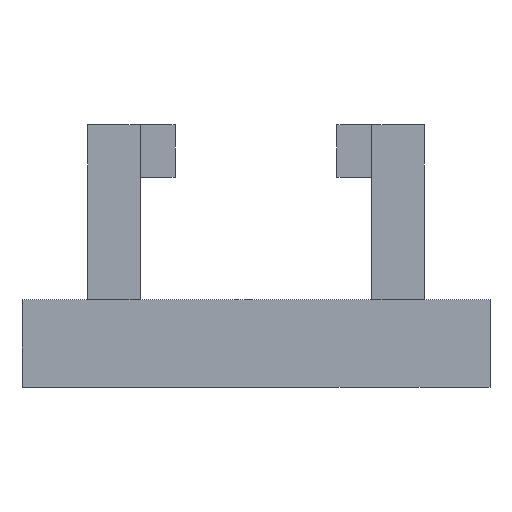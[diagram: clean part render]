
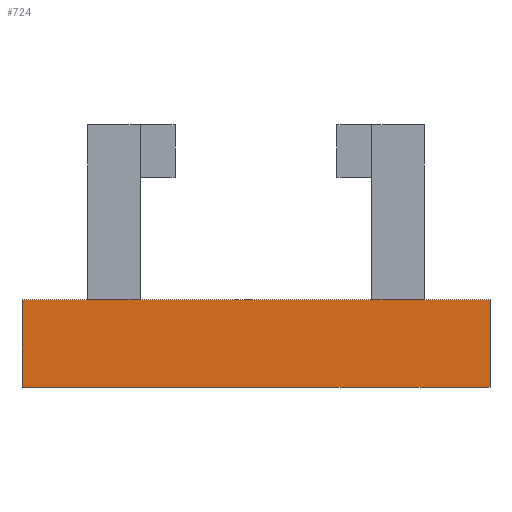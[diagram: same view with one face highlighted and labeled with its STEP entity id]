
A CAD part, front view. The second image highlights one B-rep face of the part: STEP entity #724.
In plain terms, the highlighted planar face has unit normal (0, -1, 0).
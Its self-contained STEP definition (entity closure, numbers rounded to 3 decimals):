
#99 = PLANE('',#100);
#100 = AXIS2_PLACEMENT_3D('',#101,#102,#103);
#101 = CARTESIAN_POINT('',(5.35,-11.5,-0.8));
#102 = DIRECTION('',(1.,0.,0.));
#103 = DIRECTION('',(0.,0.,1.));
#177 = PLANE('',#178);
#178 = AXIS2_PLACEMENT_3D('',#179,#180,#181);
#179 = CARTESIAN_POINT('',(-63.65,-114.8,0.));
#180 = DIRECTION('',(0.,0.,1.));
#181 = DIRECTION('',(1.,0.,-0.));
#205 = PLANE('',#206);
#206 = AXIS2_PLACEMENT_3D('',#207,#208,#209);
#207 = CARTESIAN_POINT('',(-5.35,-11.5,-0.8));
#208 = DIRECTION('',(1.,0.,0.));
#209 = DIRECTION('',(0.,0.,1.));
#231 = PLANE('',#232);
#232 = AXIS2_PLACEMENT_3D('',#233,#234,#235);
#233 = CARTESIAN_POINT('',(-61.25,-112.4,2.));
#234 = DIRECTION('',(0.,0.,1.));
#235 = DIRECTION('',(1.,0.,-0.));
#246 = EDGE_CURVE('',#247,#249,#251,.T.);
#247 = VERTEX_POINT('',#248);
#248 = CARTESIAN_POINT('',(5.35,-11.5,0.));
#249 = VERTEX_POINT('',#250);
#250 = CARTESIAN_POINT('',(5.35,-11.5,2.));
#251 = SURFACE_CURVE('',#252,(#256,#263),.PCURVE_S1.);
#252 = LINE('',#253,#254);
#253 = CARTESIAN_POINT('',(5.35,-11.5,-0.8));
#254 = VECTOR('',#255,1.);
#255 = DIRECTION('',(0.,0.,1.));
#256 = PCURVE('',#99,#257);
#257 = DEFINITIONAL_REPRESENTATION('',(#258),#262);
#258 = LINE('',#259,#260);
#259 = CARTESIAN_POINT('',(0.,0.));
#260 = VECTOR('',#261,1.);
#261 = DIRECTION('',(1.,0.));
#262 = ( GEOMETRIC_REPRESENTATION_CONTEXT(2) 
PARAMETRIC_REPRESENTATION_CONTEXT() REPRESENTATION_CONTEXT('2D SPACE',''
  ) );
#263 = PCURVE('',#264,#269);
#264 = PLANE('',#265);
#265 = AXIS2_PLACEMENT_3D('',#266,#267,#268);
#266 = CARTESIAN_POINT('',(-5.35,-11.5,-0.8));
#267 = DIRECTION('',(0.,1.,0.));
#268 = DIRECTION('',(0.,0.,1.));
#269 = DEFINITIONAL_REPRESENTATION('',(#270),#274);
#270 = LINE('',#271,#272);
#271 = CARTESIAN_POINT('',(0.,10.7));
#272 = VECTOR('',#273,1.);
#273 = DIRECTION('',(1.,0.));
#274 = ( GEOMETRIC_REPRESENTATION_CONTEXT(2) 
PARAMETRIC_REPRESENTATION_CONTEXT() REPRESENTATION_CONTEXT('2D SPACE',''
  ) );
#375 = VERTEX_POINT('',#376);
#376 = CARTESIAN_POINT('',(-5.35,-11.5,2.));
#397 = EDGE_CURVE('',#249,#375,#398,.T.);
#398 = SURFACE_CURVE('',#399,(#403,#410),.PCURVE_S1.);
#399 = LINE('',#400,#401);
#400 = CARTESIAN_POINT('',(-33.3,-11.5,2.));
#401 = VECTOR('',#402,1.);
#402 = DIRECTION('',(-1.,0.,0.));
#403 = PCURVE('',#231,#404);
#404 = DEFINITIONAL_REPRESENTATION('',(#405),#409);
#405 = LINE('',#406,#407);
#406 = CARTESIAN_POINT('',(27.95,100.9));
#407 = VECTOR('',#408,1.);
#408 = DIRECTION('',(-1.,0.));
#409 = ( GEOMETRIC_REPRESENTATION_CONTEXT(2) 
PARAMETRIC_REPRESENTATION_CONTEXT() REPRESENTATION_CONTEXT('2D SPACE',''
  ) );
#410 = PCURVE('',#264,#411);
#411 = DEFINITIONAL_REPRESENTATION('',(#412),#416);
#412 = LINE('',#413,#414);
#413 = CARTESIAN_POINT('',(2.8,-27.95));
#414 = VECTOR('',#415,1.);
#415 = DIRECTION('',(0.,-1.));
#416 = ( GEOMETRIC_REPRESENTATION_CONTEXT(2) 
PARAMETRIC_REPRESENTATION_CONTEXT() REPRESENTATION_CONTEXT('2D SPACE',''
  ) );
#651 = EDGE_CURVE('',#652,#375,#654,.T.);
#652 = VERTEX_POINT('',#653);
#653 = CARTESIAN_POINT('',(-5.35,-11.5,0.));
#654 = SURFACE_CURVE('',#655,(#659,#666),.PCURVE_S1.);
#655 = LINE('',#656,#657);
#656 = CARTESIAN_POINT('',(-5.35,-11.5,-0.8));
#657 = VECTOR('',#658,1.);
#658 = DIRECTION('',(0.,0.,1.));
#659 = PCURVE('',#205,#660);
#660 = DEFINITIONAL_REPRESENTATION('',(#661),#665);
#661 = LINE('',#662,#663);
#662 = CARTESIAN_POINT('',(0.,0.));
#663 = VECTOR('',#664,1.);
#664 = DIRECTION('',(1.,0.));
#665 = ( GEOMETRIC_REPRESENTATION_CONTEXT(2) 
PARAMETRIC_REPRESENTATION_CONTEXT() REPRESENTATION_CONTEXT('2D SPACE',''
  ) );
#666 = PCURVE('',#264,#667);
#667 = DEFINITIONAL_REPRESENTATION('',(#668),#672);
#668 = LINE('',#669,#670);
#669 = CARTESIAN_POINT('',(0.,0.));
#670 = VECTOR('',#671,1.);
#671 = DIRECTION('',(1.,0.));
#672 = ( GEOMETRIC_REPRESENTATION_CONTEXT(2) 
PARAMETRIC_REPRESENTATION_CONTEXT() REPRESENTATION_CONTEXT('2D SPACE',''
  ) );
#703 = EDGE_CURVE('',#247,#652,#704,.T.);
#704 = SURFACE_CURVE('',#705,(#709,#716),.PCURVE_S1.);
#705 = LINE('',#706,#707);
#706 = CARTESIAN_POINT('',(-34.5,-11.5,0.));
#707 = VECTOR('',#708,1.);
#708 = DIRECTION('',(-1.,0.,0.));
#709 = PCURVE('',#177,#710);
#710 = DEFINITIONAL_REPRESENTATION('',(#711),#715);
#711 = LINE('',#712,#713);
#712 = CARTESIAN_POINT('',(29.15,103.3));
#713 = VECTOR('',#714,1.);
#714 = DIRECTION('',(-1.,0.));
#715 = ( GEOMETRIC_REPRESENTATION_CONTEXT(2) 
PARAMETRIC_REPRESENTATION_CONTEXT() REPRESENTATION_CONTEXT('2D SPACE',''
  ) );
#716 = PCURVE('',#264,#717);
#717 = DEFINITIONAL_REPRESENTATION('',(#718),#722);
#718 = LINE('',#719,#720);
#719 = CARTESIAN_POINT('',(0.8,-29.15));
#720 = VECTOR('',#721,1.);
#721 = DIRECTION('',(0.,-1.));
#722 = ( GEOMETRIC_REPRESENTATION_CONTEXT(2) 
PARAMETRIC_REPRESENTATION_CONTEXT() REPRESENTATION_CONTEXT('2D SPACE',''
  ) );
#724 = ADVANCED_FACE('',(#725),#264,.F.);
#725 = FACE_BOUND('',#726,.F.);
#726 = EDGE_LOOP('',(#727,#728,#729,#730));
#727 = ORIENTED_EDGE('',*,*,#246,.F.);
#728 = ORIENTED_EDGE('',*,*,#703,.T.);
#729 = ORIENTED_EDGE('',*,*,#651,.T.);
#730 = ORIENTED_EDGE('',*,*,#397,.F.);
